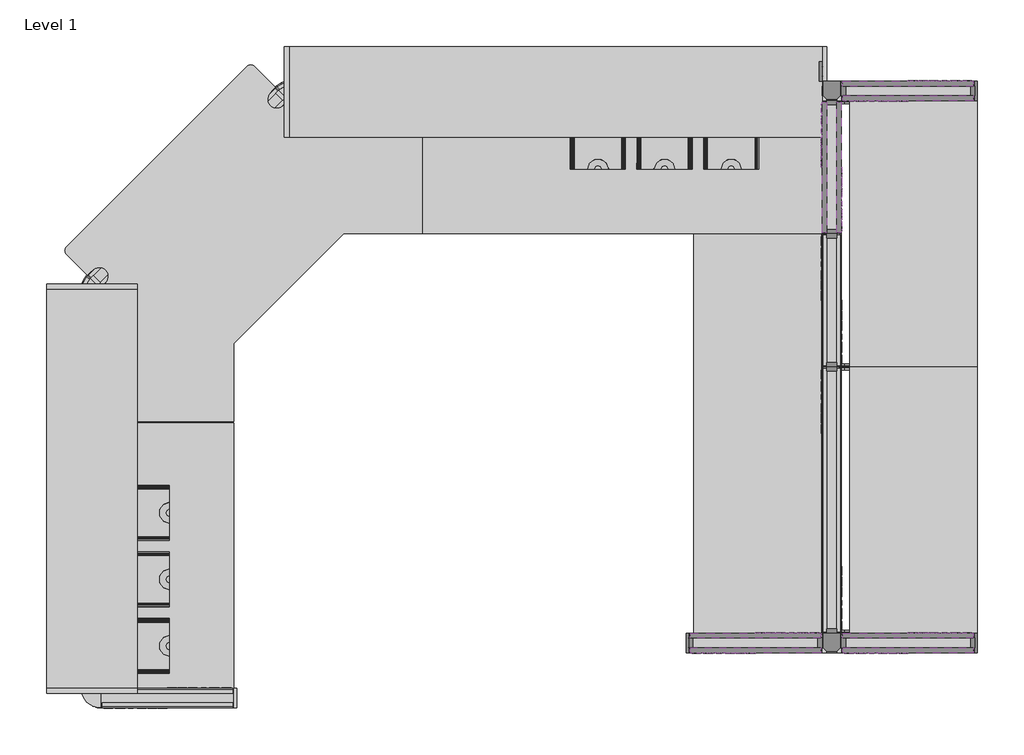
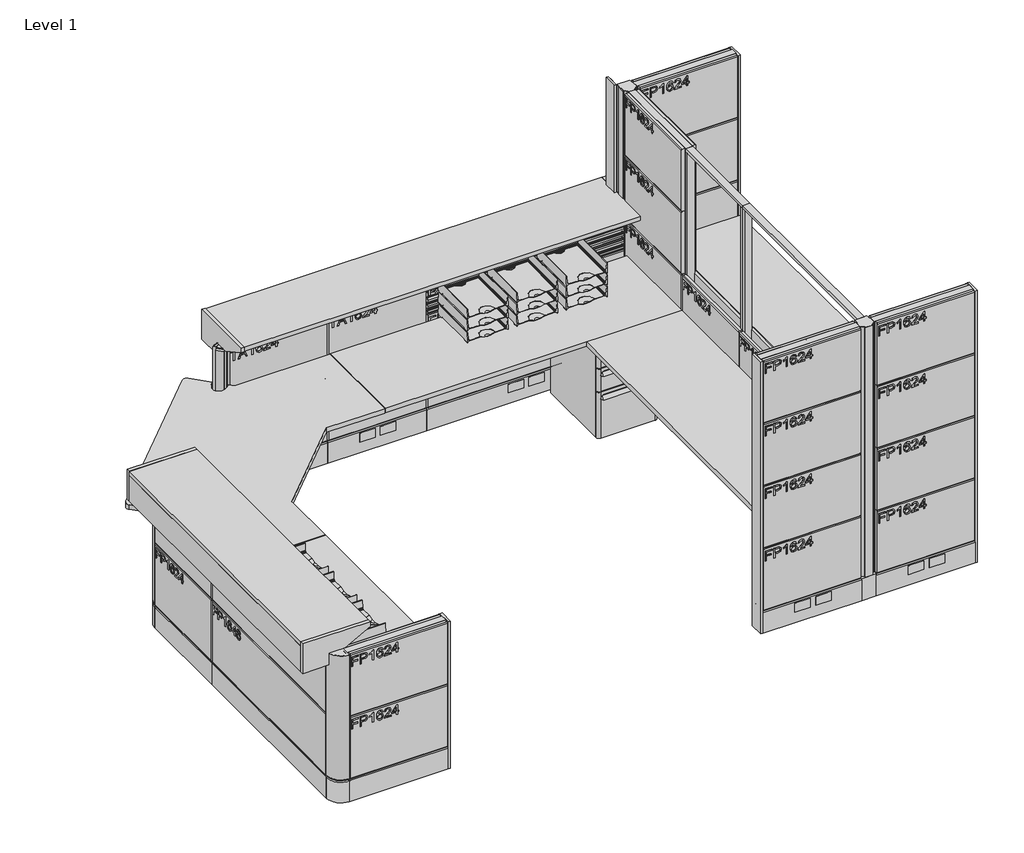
# One storey, incomplete: 147 furniture elements.
"""IFC4 building model written with IfcOpenShell, lengths in millimetres."""

from ifc_helpers import new_model, si_unit, origin, place, context, project, spatial, transform, mapped, element, save
from components import furniture_7da167ec, furniture_d1243616, furniture_9dcc6860, furniture_e1702f06, furniture_eb84e7d2, furniture_ac2deed5, furniture_61a489be, furniture_7175fb00, furniture_0245ad47, furniture_adfb5ce8, furniture_9ef934da, furniture_81fe7897, furniture_8828cb60, furniture_df6beef7, furniture_2b4b025d, furniture_4f5ec0d2, furniture_25a45a0c, furniture_8cdcebd1, furniture_82e04d0f, furniture_e94af63b, furniture_8bbf410e, furniture_e496f4a3, furniture_e89224c6, furniture_083f9362, furniture_85814acf, furniture_a03a5918, furniture_16496107, furniture_bfd90adf, furniture_24d_left_781ecdd2, furniture_24d_right_b8f5cfed, furniture_68980961, furniture_c74ffdfc, end_cap_54c5994d, lam_24d_48w_cabdf88d, lam_24d_48w_0793b51f, lam_24d_72w_2bc73c4e, left_ebece1d7, right_d4cbb337

model = new_model("IFC4")

# Units and contexts
model_context = context("Model", 3, world=origin())
ifc_project = project(units=[si_unit("LENGTHUNIT", "METRE", prefix="MILLI")], contexts=[model_context])

# Site, building, storey
site = spatial("IfcSite", under=ifc_project)
building = spatial("IfcBuilding", under=site)
storey = spatial("IfcBuildingStorey", under=building, Name="Level 1", Elevation=0.0)

# Furniture
placement = place(None, origin())
furniture_shape = furniture_7da167ec(model_context)
element("IfcFurniture", 1, ObjectType="HermanMiller_Quadrant_G5110_B-PullFreestandingPedestal : 26-1/2\"H x 20\"D x 15\"W BBF", at=placement, inside=storey, context=model_context, shape_type="MappedRepresentation", body=[
    mapped(furniture_shape, transform((3016.1484, 2503.5002, 0.0), x_axis=(1.0, 0.0, 0.0), y_axis=(0.0, 1.0, 0.0), z_axis=(0.0, 0.0, 1.0))),
])
element("IfcFurniture", 2, ObjectType="HermanMiller_Quadrant_G5110_B-PullFreestandingPedestal : 26-1/2\"H x 20\"D x 15\"W BBF", at=placement, inside=storey, context=model_context, shape_type="MappedRepresentation", body=[
    mapped(furniture_shape, transform((338.29498, 315.25464, 0.0), x_axis=(0.0, 1.0, 0.0), y_axis=(-1.0, 0.0, 0.0), z_axis=(0.0, 0.0, 1.0))),
])
furniture_2_shape = furniture_d1243616(model_context)
element("IfcFurniture", 3, ObjectType="HermanMiller_Ethospace_E1420_FaceTile : Ptd 16\"H x 24\"W", at=placement, inside=storey, context=model_context, shape_type="MappedRepresentation", body=[
    mapped(furniture_2_shape, transform((2995.70394, 328.7090261, 0.0), x_axis=(-1.0, 0.0, 0.0), y_axis=(0.0, -1.0, 0.0), z_axis=(0.0, 0.0, 1.0))),
])
element("IfcFurniture", 4, ObjectType="HermanMiller_Ethospace_E1420_FaceTile : Ptd 16\"H x 24\"W", at=placement, inside=storey, context=model_context, shape_type="MappedRepresentation", body=[
    mapped(furniture_2_shape, transform((2995.70394, 265.2090139, 0.0), x_axis=(1.0, 0.0, 0.0), y_axis=(0.0, 1.0, 0.0), z_axis=(0.0, 0.0, 1.0))),
])
element("IfcFurniture", 5, ObjectType="HermanMiller_Ethospace_E1420_FaceTile : Ptd 16\"H x 24\"W", at=placement, inside=storey, context=model_context, shape_type="MappedRepresentation", body=[
    mapped(furniture_2_shape, transform((3694.20394, 328.7090261, 0.0), x_axis=(-1.0, 0.0, 0.0), y_axis=(0.0, -1.0, 0.0), z_axis=(0.0, 0.0, 1.0))),
])
element("IfcFurniture", 6, ObjectType="HermanMiller_Ethospace_E1420_FaceTile : Ptd 16\"H x 24\"W", at=placement, inside=storey, context=model_context, shape_type="MappedRepresentation", body=[
    mapped(furniture_2_shape, transform((3694.20394, 265.2090139, 0.0), x_axis=(1.0, 0.0, 0.0), y_axis=(0.0, 1.0, 0.0), z_axis=(0.0, 0.0, 1.0))),
])
element("IfcFurniture", 7, ObjectType="HermanMiller_Ethospace_E1420_FaceTile : Ptd 16\"H x 24\"W", at=placement, inside=storey, context=model_context, shape_type="MappedRepresentation", body=[
    mapped(furniture_2_shape, transform((3376.7039461, 1865.40902, 0.0), x_axis=(0.0, 1.0, 0.0), y_axis=(-1.0, 0.0, 0.0), z_axis=(0.0, 0.0, 1.0))),
])
element("IfcFurniture", 8, ObjectType="HermanMiller_Ethospace_E1420_FaceTile : Ptd 16\"H x 24\"W", at=placement, inside=storey, context=model_context, shape_type="MappedRepresentation", body=[
    mapped(furniture_2_shape, transform((3313.2039339, 1865.40902, 0.0), x_axis=(0.0, -1.0, 0.0), y_axis=(1.0, 0.0, 0.0), z_axis=(0.0, 0.0, 1.0))),
])
element("IfcFurniture", 9, ObjectType="HermanMiller_Ethospace_E1420_FaceTile : Ptd 16\"H x 24\"W", at=placement, inside=storey, context=model_context, shape_type="MappedRepresentation", body=[
    mapped(furniture_2_shape, transform((3376.7039461, 2475.00902, 0.0), x_axis=(0.0, 1.0, 0.0), y_axis=(-1.0, 0.0, 0.0), z_axis=(0.0, 0.0, 1.0))),
])
element("IfcFurniture", 10, ObjectType="HermanMiller_Ethospace_E1420_FaceTile : Ptd 16\"H x 24\"W", at=placement, inside=storey, context=model_context, shape_type="MappedRepresentation", body=[
    mapped(furniture_2_shape, transform((3313.2039339, 2475.00902, 0.0), x_axis=(0.0, -1.0, 0.0), y_axis=(1.0, 0.0, 0.0), z_axis=(0.0, 0.0, 1.0))),
])
element("IfcFurniture", 11, ObjectType="HermanMiller_Ethospace_E1420_FaceTile : Ptd 16\"H x 24\"W", at=placement, inside=storey, context=model_context, shape_type="MappedRepresentation", body=[
    mapped(furniture_2_shape, transform((3694.20394, 2856.0090261, 0.0), x_axis=(-1.0, 0.0, 0.0), y_axis=(0.0, -1.0, 0.0), z_axis=(0.0, 0.0, 1.0))),
])
element("IfcFurniture", 12, ObjectType="HermanMiller_Ethospace_E1420_FaceTile : Ptd 16\"H x 24\"W", at=placement, inside=storey, context=model_context, shape_type="MappedRepresentation", body=[
    mapped(furniture_2_shape, transform((3694.20394, 2792.5090139, 0.0), x_axis=(1.0, 0.0, 0.0), y_axis=(0.0, 1.0, 0.0), z_axis=(0.0, 0.0, 1.0))),
])
element("IfcFurniture", 13, ObjectType="HermanMiller_Ethospace_E1420_FaceTile : Ptd 16\"H x 24\"W", at=placement, inside=storey, context=model_context, shape_type="MappedRepresentation", body=[
    mapped(furniture_2_shape, transform((1776.50394, 2856.0090261, 0.0), x_axis=(-1.0, 0.0, 0.0), y_axis=(0.0, -1.0, 0.0), z_axis=(0.0, 0.0, 1.0))),
])
element("IfcFurniture", 14, ObjectType="HermanMiller_Ethospace_E1420_FaceTile : Ptd 16\"H x 24\"W", at=placement, inside=storey, context=model_context, shape_type="MappedRepresentation", body=[
    mapped(furniture_2_shape, transform((1776.50394, 2792.5090139, 0.0), x_axis=(1.0, 0.0, 0.0), y_axis=(0.0, 1.0, 0.0), z_axis=(0.0, 0.0, 1.0))),
])
element("IfcFurniture", 15, ObjectType="HermanMiller_Ethospace_E1420_FaceTile : Ptd 16\"H x 24\"W", at=placement, inside=storey, context=model_context, shape_type="MappedRepresentation", body=[
    mapped(furniture_2_shape, transform((304.8, 13.4975539, 0.0), x_axis=(1.0, 0.0, 0.0), y_axis=(0.0, 1.0, 0.0), z_axis=(0.0, 0.0, 1.0))),
])
element("IfcFurniture", 16, ObjectType="HermanMiller_Ethospace_E1420_FaceTile : Ptd 16\"H x 24\"W", at=placement, inside=storey, context=model_context, shape_type="MappedRepresentation", body=[
    mapped(furniture_2_shape, transform((304.8, 76.2050861, 0.0), x_axis=(-1.0, 0.0, 0.0), y_axis=(0.0, -1.0, 0.0), z_axis=(0.0, 0.0, 1.0))),
])
element("IfcFurniture", 17, ObjectType="HermanMiller_Ethospace_E1420_FaceTile : Ptd 16\"H x 24\"W", at=placement, inside=storey, context=model_context, shape_type="MappedRepresentation", body=[
    mapped(furniture_2_shape, transform((1166.90394, 2856.0090261, 0.0), x_axis=(-1.0, 0.0, 0.0), y_axis=(0.0, -1.0, 0.0), z_axis=(0.0, 0.0, 1.0))),
])
element("IfcFurniture", 18, ObjectType="HermanMiller_Ethospace_E1420_FaceTile : Ptd 16\"H x 24\"W", at=placement, inside=storey, context=model_context, shape_type="MappedRepresentation", body=[
    mapped(furniture_2_shape, transform((1166.90394, 2792.5090139, 0.0), x_axis=(1.0, 0.0, 0.0), y_axis=(0.0, 1.0, 0.0), z_axis=(0.0, 0.0, 1.0))),
])
element("IfcFurniture", 19, ObjectType="HermanMiller_Ethospace_E1420_FaceTile : Ptd 16\"H x 24\"W", at=placement, inside=storey, context=model_context, shape_type="MappedRepresentation", body=[
    mapped(furniture_2_shape, transform((-76.2000061, 1612.90508, 0.0), x_axis=(0.0, -1.0, 0.0), y_axis=(1.0, 0.0, 0.0), z_axis=(0.0, 0.0, 1.0))),
])
element("IfcFurniture", 20, ObjectType="HermanMiller_Ethospace_E1420_FaceTile : Ptd 16\"H x 24\"W", at=placement, inside=storey, context=model_context, shape_type="MappedRepresentation", body=[
    mapped(furniture_2_shape, transform((-12.6999939, 1612.90508, 0.0), x_axis=(0.0, 1.0, 0.0), y_axis=(-1.0, 0.0, 0.0), z_axis=(0.0, 0.0, 1.0))),
])
furniture_3_shape = furniture_9dcc6860(model_context)
element("IfcFurniture", 21, ObjectType="HermanMiller_Ethospace_E1420_FaceTile : Ptd 16\"H x 24\"W", at=placement, inside=storey, context=model_context, shape_type="MappedRepresentation", body=[
    mapped(furniture_3_shape, transform((-12.6999939, 1612.90508, 0.0), x_axis=(0.0, 1.0, 0.0), y_axis=(-1.0, 0.0, 0.0), z_axis=(0.0, 0.0, 1.0))),
])
element("IfcFurniture", 22, ObjectType="HermanMiller_Ethospace_E1420_FaceTile : Ptd 16\"H x 24\"W", at=placement, inside=storey, context=model_context, shape_type="MappedRepresentation", body=[
    mapped(furniture_3_shape, transform((2995.70394, 328.7090261, 0.0), x_axis=(-1.0, 0.0, 0.0), y_axis=(0.0, -1.0, 0.0), z_axis=(0.0, 0.0, 1.0))),
])
element("IfcFurniture", 23, ObjectType="HermanMiller_Ethospace_E1420_FaceTile : Ptd 16\"H x 24\"W", at=placement, inside=storey, context=model_context, shape_type="MappedRepresentation", body=[
    mapped(furniture_3_shape, transform((2995.70394, 265.2090139, 0.0), x_axis=(1.0, 0.0, 0.0), y_axis=(0.0, 1.0, 0.0), z_axis=(0.0, 0.0, 1.0))),
])
element("IfcFurniture", 24, ObjectType="HermanMiller_Ethospace_E1420_FaceTile : Ptd 16\"H x 24\"W", at=placement, inside=storey, context=model_context, shape_type="MappedRepresentation", body=[
    mapped(furniture_3_shape, transform((3694.20394, 328.7090261, 0.0), x_axis=(-1.0, 0.0, 0.0), y_axis=(0.0, -1.0, 0.0), z_axis=(0.0, 0.0, 1.0))),
])
element("IfcFurniture", 25, ObjectType="HermanMiller_Ethospace_E1420_FaceTile : Ptd 16\"H x 24\"W", at=placement, inside=storey, context=model_context, shape_type="MappedRepresentation", body=[
    mapped(furniture_3_shape, transform((3694.20394, 265.2090139, 0.0), x_axis=(1.0, 0.0, 0.0), y_axis=(0.0, 1.0, 0.0), z_axis=(0.0, 0.0, 1.0))),
])
element("IfcFurniture", 26, ObjectType="HermanMiller_Ethospace_E1420_FaceTile : Ptd 16\"H x 24\"W", at=placement, inside=storey, context=model_context, shape_type="MappedRepresentation", body=[
    mapped(furniture_3_shape, transform((3376.7039461, 1865.40902, 0.0), x_axis=(0.0, 1.0, 0.0), y_axis=(-1.0, 0.0, 0.0), z_axis=(0.0, 0.0, 1.0))),
])
element("IfcFurniture", 27, ObjectType="HermanMiller_Ethospace_E1420_FaceTile : Ptd 16\"H x 24\"W", at=placement, inside=storey, context=model_context, shape_type="MappedRepresentation", body=[
    mapped(furniture_3_shape, transform((3313.2039339, 1865.40902, 0.0), x_axis=(0.0, -1.0, 0.0), y_axis=(1.0, 0.0, 0.0), z_axis=(0.0, 0.0, 1.0))),
])
element("IfcFurniture", 28, ObjectType="HermanMiller_Ethospace_E1420_FaceTile : Ptd 16\"H x 24\"W", at=placement, inside=storey, context=model_context, shape_type="MappedRepresentation", body=[
    mapped(furniture_3_shape, transform((3376.7039461, 2475.00902, 0.0), x_axis=(0.0, 1.0, 0.0), y_axis=(-1.0, 0.0, 0.0), z_axis=(0.0, 0.0, 1.0))),
])
element("IfcFurniture", 29, ObjectType="HermanMiller_Ethospace_E1420_FaceTile : Ptd 16\"H x 24\"W", at=placement, inside=storey, context=model_context, shape_type="MappedRepresentation", body=[
    mapped(furniture_3_shape, transform((3313.2039339, 2475.00902, 0.0), x_axis=(0.0, -1.0, 0.0), y_axis=(1.0, 0.0, 0.0), z_axis=(0.0, 0.0, 1.0))),
])
element("IfcFurniture", 30, ObjectType="HermanMiller_Ethospace_E1420_FaceTile : Ptd 16\"H x 24\"W", at=placement, inside=storey, context=model_context, shape_type="MappedRepresentation", body=[
    mapped(furniture_3_shape, transform((3694.20394, 2856.0090261, 0.0), x_axis=(-1.0, 0.0, 0.0), y_axis=(0.0, -1.0, 0.0), z_axis=(0.0, 0.0, 1.0))),
])
element("IfcFurniture", 31, ObjectType="HermanMiller_Ethospace_E1420_FaceTile : Ptd 16\"H x 24\"W", at=placement, inside=storey, context=model_context, shape_type="MappedRepresentation", body=[
    mapped(furniture_3_shape, transform((3694.20394, 2792.5090139, 0.0), x_axis=(1.0, 0.0, 0.0), y_axis=(0.0, 1.0, 0.0), z_axis=(0.0, 0.0, 1.0))),
])
element("IfcFurniture", 32, ObjectType="HermanMiller_Ethospace_E1420_FaceTile : Ptd 16\"H x 24\"W", at=placement, inside=storey, context=model_context, shape_type="MappedRepresentation", body=[
    mapped(furniture_3_shape, transform((1776.50394, 2856.0090261, 0.0), x_axis=(-1.0, 0.0, 0.0), y_axis=(0.0, -1.0, 0.0), z_axis=(0.0, 0.0, 1.0))),
])
element("IfcFurniture", 33, ObjectType="HermanMiller_Ethospace_E1420_FaceTile : Ptd 16\"H x 24\"W", at=placement, inside=storey, context=model_context, shape_type="MappedRepresentation", body=[
    mapped(furniture_3_shape, transform((304.8, 13.4975539, 0.0), x_axis=(1.0, 0.0, 0.0), y_axis=(0.0, 1.0, 0.0), z_axis=(0.0, 0.0, 1.0))),
])
element("IfcFurniture", 34, ObjectType="HermanMiller_Ethospace_E1420_FaceTile : Ptd 16\"H x 24\"W", at=placement, inside=storey, context=model_context, shape_type="MappedRepresentation", body=[
    mapped(furniture_3_shape, transform((304.8, 76.2050861, 0.0), x_axis=(-1.0, 0.0, 0.0), y_axis=(0.0, -1.0, 0.0), z_axis=(0.0, 0.0, 1.0))),
])
element("IfcFurniture", 35, ObjectType="HermanMiller_Ethospace_E1420_FaceTile : Ptd 16\"H x 24\"W", at=placement, inside=storey, context=model_context, shape_type="MappedRepresentation", body=[
    mapped(furniture_3_shape, transform((1166.90394, 2856.0090261, 0.0), x_axis=(-1.0, 0.0, 0.0), y_axis=(0.0, -1.0, 0.0), z_axis=(0.0, 0.0, 1.0))),
])
element("IfcFurniture", 36, ObjectType="HermanMiller_Ethospace_E1420_FaceTile : Ptd 16\"H x 24\"W", at=placement, inside=storey, context=model_context, shape_type="MappedRepresentation", body=[
    mapped(furniture_3_shape, transform((-76.2000061, 1612.90508, 0.0), x_axis=(0.0, -1.0, 0.0), y_axis=(1.0, 0.0, 0.0), z_axis=(0.0, 0.0, 1.0))),
])
furniture_4_shape = furniture_e1702f06(model_context)
element("IfcFurniture", 37, ObjectType="HermanMiller_Ethospace_E1250_FinishedEnd : Std Ptd 70\"H", at=placement, inside=storey, context=model_context, shape_type="MappedRepresentation", body=[
    mapped(furniture_4_shape, transform((2685.5333382, 291.1628144, 0.0), x_axis=(-1.0, 0.0, 0.0), y_axis=(0.0, -1.0, 0.0), z_axis=(0.0, 0.0, 1.0))),
])
element("IfcFurniture", 38, ObjectType="HermanMiller_Ethospace_E1250_FinishedEnd : Std Ptd 70\"H", at=placement, inside=storey, context=model_context, shape_type="MappedRepresentation", body=[
    mapped(furniture_4_shape, transform((4004.3745418, 302.7552256, 0.0), x_axis=(1.0, 0.0, 0.0), y_axis=(0.0, 1.0, 0.0), z_axis=(0.0, 0.0, 1.0))),
])
element("IfcFurniture", 39, ObjectType="HermanMiller_Ethospace_E1250_FinishedEnd : Std Ptd 70\"H", at=placement, inside=storey, context=model_context, shape_type="MappedRepresentation", body=[
    mapped(furniture_4_shape, transform((4004.3745418, 2830.0552256, 0.0), x_axis=(1.0, 0.0, 0.0), y_axis=(0.0, 1.0, 0.0), z_axis=(0.0, 0.0, 1.0))),
])
furniture_5_shape = furniture_eb84e7d2(model_context)
element("IfcFurniture", 40, ObjectType="HermanMiller_Ethospace_E1420_FaceTile : Ptd 16\"H x 24\"W", at=placement, inside=storey, context=model_context, shape_type="MappedRepresentation", body=[
    mapped(furniture_5_shape, transform((2995.70394, 328.7090261, 0.0), x_axis=(-1.0, 0.0, 0.0), y_axis=(0.0, -1.0, 0.0), z_axis=(0.0, 0.0, 1.0))),
])
element("IfcFurniture", 41, ObjectType="HermanMiller_Ethospace_E1420_FaceTile : Ptd 16\"H x 24\"W", at=placement, inside=storey, context=model_context, shape_type="MappedRepresentation", body=[
    mapped(furniture_5_shape, transform((2995.70394, 265.2090139, 0.0), x_axis=(1.0, 0.0, 0.0), y_axis=(0.0, 1.0, 0.0), z_axis=(0.0, 0.0, 1.0))),
])
element("IfcFurniture", 42, ObjectType="HermanMiller_Ethospace_E1420_FaceTile : Ptd 16\"H x 24\"W", at=placement, inside=storey, context=model_context, shape_type="MappedRepresentation", body=[
    mapped(furniture_5_shape, transform((3694.20394, 328.7090261, 0.0), x_axis=(-1.0, 0.0, 0.0), y_axis=(0.0, -1.0, 0.0), z_axis=(0.0, 0.0, 1.0))),
])
element("IfcFurniture", 43, ObjectType="HermanMiller_Ethospace_E1420_FaceTile : Ptd 16\"H x 24\"W", at=placement, inside=storey, context=model_context, shape_type="MappedRepresentation", body=[
    mapped(furniture_5_shape, transform((3694.20394, 265.2090139, 0.0), x_axis=(1.0, 0.0, 0.0), y_axis=(0.0, 1.0, 0.0), z_axis=(0.0, 0.0, 1.0))),
])
element("IfcFurniture", 44, ObjectType="HermanMiller_Ethospace_E1420_FaceTile : Ptd 16\"H x 24\"W", at=placement, inside=storey, context=model_context, shape_type="MappedRepresentation", body=[
    mapped(furniture_5_shape, transform((3376.7039461, 2475.00902, 0.0), x_axis=(0.0, 1.0, 0.0), y_axis=(-1.0, 0.0, 0.0), z_axis=(0.0, 0.0, 1.0))),
])
element("IfcFurniture", 45, ObjectType="HermanMiller_Ethospace_E1420_FaceTile : Ptd 16\"H x 24\"W", at=placement, inside=storey, context=model_context, shape_type="MappedRepresentation", body=[
    mapped(furniture_5_shape, transform((3313.2039339, 2475.00902, 0.0), x_axis=(0.0, -1.0, 0.0), y_axis=(1.0, 0.0, 0.0), z_axis=(0.0, 0.0, 1.0))),
])
element("IfcFurniture", 46, ObjectType="HermanMiller_Ethospace_E1420_FaceTile : Ptd 16\"H x 24\"W", at=placement, inside=storey, context=model_context, shape_type="MappedRepresentation", body=[
    mapped(furniture_5_shape, transform((3694.20394, 2856.0090261, 0.0), x_axis=(-1.0, 0.0, 0.0), y_axis=(0.0, -1.0, 0.0), z_axis=(0.0, 0.0, 1.0))),
])
element("IfcFurniture", 47, ObjectType="HermanMiller_Ethospace_E1420_FaceTile : Ptd 16\"H x 24\"W", at=placement, inside=storey, context=model_context, shape_type="MappedRepresentation", body=[
    mapped(furniture_5_shape, transform((3694.20394, 2792.5090139, 0.0), x_axis=(1.0, 0.0, 0.0), y_axis=(0.0, 1.0, 0.0), z_axis=(0.0, 0.0, 1.0))),
])
furniture_6_shape = furniture_ac2deed5(model_context)
element("IfcFurniture", 48, ObjectType="HermanMiller_Ethospace_E1420_FaceTile : Ptd 16\"H x 24\"W", at=placement, inside=storey, context=model_context, shape_type="MappedRepresentation", body=[
    mapped(furniture_6_shape, transform((2995.70394, 328.7090261, 0.0), x_axis=(-1.0, 0.0, 0.0), y_axis=(0.0, -1.0, 0.0), z_axis=(0.0, 0.0, 1.0))),
])
element("IfcFurniture", 49, ObjectType="HermanMiller_Ethospace_E1420_FaceTile : Ptd 16\"H x 24\"W", at=placement, inside=storey, context=model_context, shape_type="MappedRepresentation", body=[
    mapped(furniture_6_shape, transform((2995.70394, 265.2090139, 0.0), x_axis=(1.0, 0.0, 0.0), y_axis=(0.0, 1.0, 0.0), z_axis=(0.0, 0.0, 1.0))),
])
element("IfcFurniture", 50, ObjectType="HermanMiller_Ethospace_E1420_FaceTile : Ptd 16\"H x 24\"W", at=placement, inside=storey, context=model_context, shape_type="MappedRepresentation", body=[
    mapped(furniture_6_shape, transform((3694.20394, 328.7090261, 0.0), x_axis=(-1.0, 0.0, 0.0), y_axis=(0.0, -1.0, 0.0), z_axis=(0.0, 0.0, 1.0))),
])
element("IfcFurniture", 51, ObjectType="HermanMiller_Ethospace_E1420_FaceTile : Ptd 16\"H x 24\"W", at=placement, inside=storey, context=model_context, shape_type="MappedRepresentation", body=[
    mapped(furniture_6_shape, transform((3694.20394, 265.2090139, 0.0), x_axis=(1.0, 0.0, 0.0), y_axis=(0.0, 1.0, 0.0), z_axis=(0.0, 0.0, 1.0))),
])
element("IfcFurniture", 52, ObjectType="HermanMiller_Ethospace_E1420_FaceTile : Ptd 16\"H x 24\"W", at=placement, inside=storey, context=model_context, shape_type="MappedRepresentation", body=[
    mapped(furniture_6_shape, transform((3376.7039461, 2475.00902, 0.0), x_axis=(0.0, 1.0, 0.0), y_axis=(-1.0, 0.0, 0.0), z_axis=(0.0, 0.0, 1.0))),
])
element("IfcFurniture", 53, ObjectType="HermanMiller_Ethospace_E1420_FaceTile : Ptd 16\"H x 24\"W", at=placement, inside=storey, context=model_context, shape_type="MappedRepresentation", body=[
    mapped(furniture_6_shape, transform((3313.2039339, 2475.00902, 0.0), x_axis=(0.0, -1.0, 0.0), y_axis=(1.0, 0.0, 0.0), z_axis=(0.0, 0.0, 1.0))),
])
element("IfcFurniture", 54, ObjectType="HermanMiller_Ethospace_E1420_FaceTile : Ptd 16\"H x 24\"W", at=placement, inside=storey, context=model_context, shape_type="MappedRepresentation", body=[
    mapped(furniture_6_shape, transform((3694.20394, 2856.0090261, 0.0), x_axis=(-1.0, 0.0, 0.0), y_axis=(0.0, -1.0, 0.0), z_axis=(0.0, 0.0, 1.0))),
])
element("IfcFurniture", 55, ObjectType="HermanMiller_Ethospace_E1420_FaceTile : Ptd 16\"H x 24\"W", at=placement, inside=storey, context=model_context, shape_type="MappedRepresentation", body=[
    mapped(furniture_6_shape, transform((3694.20394, 2792.5090139, 0.0), x_axis=(1.0, 0.0, 0.0), y_axis=(0.0, 1.0, 0.0), z_axis=(0.0, 0.0, 1.0))),
])
furniture_7_shape = furniture_61a489be(model_context)
element("IfcFurniture", 56, ObjectType="HermanMiller_Ethospace_E1109_Frame : 70\"H x 24\"W-H", at=placement, inside=storey, context=model_context, shape_type="MappedRepresentation", body=[
    mapped(furniture_7_shape, transform((2995.70394, 296.95902, 0.0), x_axis=(1.0, 0.0, 0.0), y_axis=(0.0, 1.0, 0.0), z_axis=(0.0, 0.0, 1.0))),
])
element("IfcFurniture", 57, ObjectType="HermanMiller_Ethospace_E1109_Frame : 70\"H x 24\"W-H", at=placement, inside=storey, context=model_context, shape_type="MappedRepresentation", body=[
    mapped(furniture_7_shape, transform((3694.20394, 296.95902, 0.0), x_axis=(1.0, 0.0, 0.0), y_axis=(0.0, 1.0, 0.0), z_axis=(0.0, 0.0, 1.0))),
])
element("IfcFurniture", 58, ObjectType="HermanMiller_Ethospace_E1109_Frame : 70\"H x 24\"W-H", at=placement, inside=storey, context=model_context, shape_type="MappedRepresentation", body=[
    mapped(furniture_7_shape, transform((3344.95394, 1865.40902, 0.0), x_axis=(0.0, -1.0, 0.0), y_axis=(1.0, 0.0, 0.0), z_axis=(0.0, 0.0, 1.0))),
])
element("IfcFurniture", 59, ObjectType="HermanMiller_Ethospace_E1109_Frame : 70\"H x 24\"W-H", at=placement, inside=storey, context=model_context, shape_type="MappedRepresentation", body=[
    mapped(furniture_7_shape, transform((3344.95394, 2475.00902, 0.0), x_axis=(0.0, -1.0, 0.0), y_axis=(1.0, 0.0, 0.0), z_axis=(0.0, 0.0, 1.0))),
])
element("IfcFurniture", 60, ObjectType="HermanMiller_Ethospace_E1109_Frame : 70\"H x 24\"W-H", at=placement, inside=storey, context=model_context, shape_type="MappedRepresentation", body=[
    mapped(furniture_7_shape, transform((3694.20394, 2824.25902, 0.0), x_axis=(1.0, 0.0, 0.0), y_axis=(0.0, 1.0, 0.0), z_axis=(0.0, 0.0, 1.0))),
])
furniture_8_shape = furniture_7175fb00(model_context)
element("IfcFurniture", 61, ObjectType="HermanMiller_Ethospace_E1220_90DegreeConnector : Vnyl 70\"H 3-Way-N", at=placement, inside=storey, context=model_context, shape_type="MappedRepresentation", body=[
    mapped(furniture_8_shape, transform((3319.5539381, 288.7938099, 0.0), x_axis=(1.0, 0.0, 0.0), y_axis=(0.0, 1.0, 0.0), z_axis=(0.0, 0.0, 1.0))),
])
element("IfcFurniture", 62, ObjectType="HermanMiller_Ethospace_E1220_90DegreeConnector : Vnyl 70\"H 3-Way-N", at=placement, inside=storey, context=model_context, shape_type="MappedRepresentation", body=[
    mapped(furniture_8_shape, transform((3319.5539381, 2816.0938099, 0.0), x_axis=(1.0, 0.0, 0.0), y_axis=(0.0, 1.0, 0.0), z_axis=(0.0, 0.0, 1.0))),
])
furniture_9_shape = furniture_0245ad47(model_context)
element("IfcFurniture", 63, ObjectType="HermanMiller_Ethospace_E1420_FaceTile : Ptd 16\"H x 48\"W", at=placement, inside=storey, context=model_context, shape_type="MappedRepresentation", body=[
    mapped(furniture_9_shape, transform((3313.2039339, 951.00902, 0.0), x_axis=(0.0, -1.0, 0.0), y_axis=(1.0, 0.0, 0.0), z_axis=(0.0, 0.0, 1.0))),
])
element("IfcFurniture", 64, ObjectType="HermanMiller_Ethospace_E1420_FaceTile : Ptd 16\"H x 48\"W", at=placement, inside=storey, context=model_context, shape_type="MappedRepresentation", body=[
    mapped(furniture_9_shape, transform((3376.7039461, 951.00902, 0.0), x_axis=(0.0, 1.0, 0.0), y_axis=(-1.0, 0.0, 0.0), z_axis=(0.0, 0.0, 1.0))),
])
element("IfcFurniture", 65, ObjectType="HermanMiller_Ethospace_E1420_FaceTile : Ptd 16\"H x 48\"W", at=placement, inside=storey, context=model_context, shape_type="MappedRepresentation", body=[
    mapped(furniture_9_shape, transform((2690.90394, 2792.5090139, 0.0), x_axis=(1.0, 0.0, 0.0), y_axis=(0.0, 1.0, 0.0), z_axis=(0.0, 0.0, 1.0))),
])
element("IfcFurniture", 66, ObjectType="HermanMiller_Ethospace_E1420_FaceTile : Ptd 16\"H x 48\"W", at=placement, inside=storey, context=model_context, shape_type="MappedRepresentation", body=[
    mapped(furniture_9_shape, transform((2690.90394, 2856.0090261, 0.0), x_axis=(-1.0, 0.0, 0.0), y_axis=(0.0, -1.0, 0.0), z_axis=(0.0, 0.0, 1.0))),
])
element("IfcFurniture", 67, ObjectType="HermanMiller_Ethospace_E1420_FaceTile : Ptd 16\"H x 48\"W", at=placement, inside=storey, context=model_context, shape_type="MappedRepresentation", body=[
    mapped(furniture_9_shape, transform((-12.6999939, 698.50508, 0.0), x_axis=(0.0, 1.0, 0.0), y_axis=(-1.0, 0.0, 0.0), z_axis=(0.0, 0.0, 1.0))),
])
element("IfcFurniture", 68, ObjectType="HermanMiller_Ethospace_E1420_FaceTile : Ptd 16\"H x 48\"W", at=placement, inside=storey, context=model_context, shape_type="MappedRepresentation", body=[
    mapped(furniture_9_shape, transform((-76.2000061, 698.50508, 0.0), x_axis=(0.0, -1.0, 0.0), y_axis=(1.0, 0.0, 0.0), z_axis=(0.0, 0.0, 1.0))),
])
furniture_10_shape = furniture_adfb5ce8(model_context)
element("IfcFurniture", 69, ObjectType="HermanMiller_Ethospace_E1420_FaceTile : Ptd 16\"H x 48\"W", at=placement, inside=storey, context=model_context, shape_type="MappedRepresentation", body=[
    mapped(furniture_10_shape, transform((3313.2039339, 951.00902, 0.0), x_axis=(0.0, -1.0, 0.0), y_axis=(1.0, 0.0, 0.0), z_axis=(0.0, 0.0, 1.0))),
])
element("IfcFurniture", 70, ObjectType="HermanMiller_Ethospace_E1420_FaceTile : Ptd 16\"H x 48\"W", at=placement, inside=storey, context=model_context, shape_type="MappedRepresentation", body=[
    mapped(furniture_10_shape, transform((3376.7039461, 951.00902, 0.0), x_axis=(0.0, 1.0, 0.0), y_axis=(-1.0, 0.0, 0.0), z_axis=(0.0, 0.0, 1.0))),
])
element("IfcFurniture", 71, ObjectType="HermanMiller_Ethospace_E1420_FaceTile : Ptd 16\"H x 48\"W", at=placement, inside=storey, context=model_context, shape_type="MappedRepresentation", body=[
    mapped(furniture_10_shape, transform((2690.90394, 2856.0090261, 0.0), x_axis=(-1.0, 0.0, 0.0), y_axis=(0.0, -1.0, 0.0), z_axis=(0.0, 0.0, 1.0))),
])
element("IfcFurniture", 72, ObjectType="HermanMiller_Ethospace_E1420_FaceTile : Ptd 16\"H x 48\"W", at=placement, inside=storey, context=model_context, shape_type="MappedRepresentation", body=[
    mapped(furniture_10_shape, transform((-76.2000061, 698.50508, 0.0), x_axis=(0.0, -1.0, 0.0), y_axis=(1.0, 0.0, 0.0), z_axis=(0.0, 0.0, 1.0))),
])
furniture_11_shape = furniture_9ef934da(model_context)
element("IfcFurniture", 73, ObjectType="HermanMiller_Ethospace_E1109_Frame : 70\"H x 48\"W-H", at=placement, inside=storey, context=model_context, shape_type="MappedRepresentation", body=[
    mapped(furniture_11_shape, transform((3344.95394, 951.00902, 0.0), x_axis=(0.0, -1.0, 0.0), y_axis=(1.0, 0.0, 0.0), z_axis=(0.0, 0.0, 1.0))),
])
furniture_12_shape = furniture_81fe7897(model_context)
element("IfcFurniture", 74, ObjectType="HermanMiller_Ethospace_E1251_FinishedEndChangeOfHeight : Std Ptd 28\"H", at=placement, inside=storey, context=model_context, shape_type="MappedRepresentation", body=[
    mapped(furniture_12_shape, transform((3295.1333382, 2907.3907544, 0.0), x_axis=(-1.0, 0.0, 0.0), y_axis=(0.0, -1.0, 0.0), z_axis=(0.0, 0.0, 1.0))),
])
furniture_13_shape = furniture_8828cb60(model_context)
element("IfcFurniture", 75, ObjectType="HermanMiller_Ethospace_E2827_CounterTopSupport : 24\"W W/Light", at=placement, inside=storey, context=model_context, shape_type="MappedRepresentation", body=[
    mapped(furniture_13_shape, transform((1776.50394, 2811.55902, 0.0), x_axis=(1.0, 0.0, 0.0), y_axis=(0.0, 1.0, 0.0), z_axis=(0.0, 0.0, 1.0))),
])
element("IfcFurniture", 76, ObjectType="HermanMiller_Ethospace_E2827_CounterTopSupport : 24\"W W/Light", at=placement, inside=storey, context=model_context, shape_type="MappedRepresentation", body=[
    mapped(furniture_13_shape, transform((1166.90394, 2811.5641, 0.0), x_axis=(1.0, 0.0, 0.0), y_axis=(0.0, 1.0, 0.0), z_axis=(0.0, 0.0, 1.0))),
])
element("IfcFurniture", 77, ObjectType="HermanMiller_Ethospace_E2827_CounterTopSupport : 24\"W W/Light", at=placement, inside=storey, context=model_context, shape_type="MappedRepresentation", body=[
    mapped(furniture_13_shape, transform((-31.75254, 1612.90508, 0.0), x_axis=(0.0, 1.0, 0.0), y_axis=(-1.0, 0.0, 0.0), z_axis=(0.0, 0.0, 1.0))),
])
furniture_14_shape = furniture_df6beef7(model_context)
element("IfcFurniture", 78, ObjectType="HermanMiller_Ethospace_E2827_CounterTopSupport : 48\"W W/Light", at=placement, inside=storey, context=model_context, shape_type="MappedRepresentation", body=[
    mapped(furniture_14_shape, transform((2690.90394, 2811.55902, 0.0), x_axis=(1.0, 0.0, 0.0), y_axis=(0.0, 1.0, 0.0), z_axis=(0.0, 0.0, 1.0))),
])
element("IfcFurniture", 79, ObjectType="HermanMiller_Ethospace_E2827_CounterTopSupport : 48\"W W/Light", at=placement, inside=storey, context=model_context, shape_type="MappedRepresentation", body=[
    mapped(furniture_14_shape, transform((-31.7373, 698.50508, 0.0), x_axis=(0.0, 1.0, 0.0), y_axis=(-1.0, 0.0, 0.0), z_axis=(0.0, 0.0, 1.0))),
])
furniture_15_shape = furniture_2b4b025d(model_context)
element("IfcFurniture", 80, ObjectType="HermanMiller_Ethospace_E1109_Frame : 38\"H x 48\"W-H", at=placement, inside=storey, context=model_context, shape_type="MappedRepresentation", body=[
    mapped(furniture_15_shape, transform((2690.90394, 2824.25902, 0.0), x_axis=(1.0, 0.0, 0.0), y_axis=(0.0, 1.0, 0.0), z_axis=(0.0, 0.0, 1.0))),
])
element("IfcFurniture", 81, ObjectType="HermanMiller_Ethospace_E1109_Frame : 38\"H x 48\"W-H", at=placement, inside=storey, context=model_context, shape_type="MappedRepresentation", body=[
    mapped(furniture_15_shape, transform((-44.44238, 698.50508, 0.0), x_axis=(0.0, 1.0, 0.0), y_axis=(-1.0, 0.0, 0.0), z_axis=(0.0, 0.0, 1.0))),
])
furniture_16_shape = furniture_4f5ec0d2(model_context)
element("IfcFurniture", 82, ObjectType="HermanMiller_Ethospace_E1420_FaceTile : Ptd 08\"H x 48\"W", at=placement, inside=storey, context=model_context, shape_type="MappedRepresentation", body=[
    mapped(furniture_16_shape, transform((2690.90394, 2792.5090139, 0.0), x_axis=(1.0, 0.0, 0.0), y_axis=(0.0, 1.0, 0.0), z_axis=(0.0, 0.0, 1.0))),
])
element("IfcFurniture", 83, ObjectType="HermanMiller_Ethospace_E1420_FaceTile : Ptd 08\"H x 48\"W", at=placement, inside=storey, context=model_context, shape_type="MappedRepresentation", body=[
    mapped(furniture_16_shape, transform((-12.6999939, 698.50508, 0.0), x_axis=(0.0, 1.0, 0.0), y_axis=(-1.0, 0.0, 0.0), z_axis=(0.0, 0.0, 1.0))),
])
furniture_17_shape = furniture_25a45a0c(model_context)
element("IfcFurniture", 84, ObjectType="HermanMiller_Ethospace_E1425_RailTile : 08\"H x 48\"W", at=placement, inside=storey, context=model_context, shape_type="MappedRepresentation", body=[
    mapped(furniture_17_shape, transform((2690.90394, 2802.03402, 0.0), x_axis=(1.0, 0.0, 0.0), y_axis=(0.0, 1.0, 0.0), z_axis=(0.0, 0.0, 1.0))),
])
element("IfcFurniture", 85, ObjectType="HermanMiller_Ethospace_E1425_RailTile : 08\"H x 48\"W", at=placement, inside=storey, context=model_context, shape_type="MappedRepresentation", body=[
    mapped(furniture_17_shape, transform((-22.225, 698.50508, 0.0), x_axis=(0.0, 1.0, 0.0), y_axis=(-1.0, 0.0, 0.0), z_axis=(0.0, 0.0, 1.0))),
])
furniture_18_shape = furniture_8cdcebd1(model_context)
element("IfcFurniture", 86, ObjectType="HermanMiller_Ethospace_E1422_TackableTile : 16\"H x 24\"W", at=placement, inside=storey, context=model_context, shape_type="MappedRepresentation", body=[
    mapped(furniture_18_shape, transform((1776.50394, 2792.5090139, 0.0), x_axis=(1.0, 0.0, 0.0), y_axis=(0.0, 1.0, 0.0), z_axis=(0.0, 0.0, 1.0))),
])
element("IfcFurniture", 87, ObjectType="HermanMiller_Ethospace_E1422_TackableTile : 16\"H x 24\"W", at=placement, inside=storey, context=model_context, shape_type="MappedRepresentation", body=[
    mapped(furniture_18_shape, transform((1166.90394, 2792.5090139, 0.0), x_axis=(1.0, 0.0, 0.0), y_axis=(0.0, 1.0, 0.0), z_axis=(0.0, 0.0, 1.0))),
])
furniture_19_shape = furniture_82e04d0f(model_context)
element("IfcFurniture", 88, ObjectType="HermanMiller_Ethospace_E1109_Frame : 38\"H x 24\"W-H", at=placement, inside=storey, context=model_context, shape_type="MappedRepresentation", body=[
    mapped(furniture_19_shape, transform((1776.50394, 2824.25902, 0.0), x_axis=(1.0, 0.0, 0.0), y_axis=(0.0, 1.0, 0.0), z_axis=(0.0, 0.0, 1.0))),
])
element("IfcFurniture", 89, ObjectType="HermanMiller_Ethospace_E1109_Frame : 38\"H x 24\"W-H", at=placement, inside=storey, context=model_context, shape_type="MappedRepresentation", body=[
    mapped(furniture_19_shape, transform((304.93716, 44.45508, 0.0), x_axis=(-1.0, 0.0, 0.0), y_axis=(0.0, -1.0, 0.0), z_axis=(0.0, 0.0, 1.0))),
])
element("IfcFurniture", 90, ObjectType="HermanMiller_Ethospace_E1109_Frame : 38\"H x 24\"W-H", at=placement, inside=storey, context=model_context, shape_type="MappedRepresentation", body=[
    mapped(furniture_19_shape, transform((1166.90394, 2824.2641, 0.0), x_axis=(1.0, 0.0, 0.0), y_axis=(0.0, 1.0, 0.0), z_axis=(0.0, 0.0, 1.0))),
])
element("IfcFurniture", 91, ObjectType="HermanMiller_Ethospace_E1109_Frame : 38\"H x 24\"W-H", at=placement, inside=storey, context=model_context, shape_type="MappedRepresentation", body=[
    mapped(furniture_19_shape, transform((-44.45254, 1612.90508, 0.0), x_axis=(0.0, 1.0, 0.0), y_axis=(-1.0, 0.0, 0.0), z_axis=(0.0, 0.0, 1.0))),
])
furniture_20_shape = furniture_e94af63b(model_context)
element("IfcFurniture", 92, ObjectType="HermanMiller_Ethospace_E2830_SqEdgeCounterTop : 7-1/2\"H x 16-3/8\"D x 72\"W", at=placement, inside=storey, context=model_context, shape_type="MappedRepresentation", body=[
    mapped(furniture_20_shape, transform((-39.69004, 1003.30508, 0.0), x_axis=(0.0, 1.0, 0.0), y_axis=(-1.0, 0.0, 0.0), z_axis=(0.0, 0.0, 1.0))),
])
furniture_21_shape = furniture_8bbf410e(model_context)
element("IfcFurniture", 93, ObjectType="HermanMiller_Ethospace_E1250_FinishedEnd : Std Ptd 38\"H", at=placement, inside=storey, context=model_context, shape_type="MappedRepresentation", body=[
    mapped(furniture_21_shape, transform((615.1077618, 50.2512856, 0.0), x_axis=(1.0, 0.0, 0.0), y_axis=(0.0, 1.0, 0.0), z_axis=(0.0, 0.0, 1.0))),
])
furniture_22_shape = furniture_e496f4a3(model_context)
element("IfcFurniture", 94, ObjectType="HermanMiller_Ethospace_E1220_90DegreeConnector : Vnyl 38\"H 2-Way Rds-N", at=placement, inside=storey, context=model_context, shape_type="MappedRepresentation", body=[
    mapped(furniture_22_shape, transform((-19.0372981, 52.6202901, 0.0), x_axis=(-1.0, 0.0, 0.0), y_axis=(0.0, -1.0, 0.0), z_axis=(0.0, 0.0, 1.0))),
])
furniture_23_shape = furniture_e89224c6(model_context)
element("IfcFurniture", 95, ObjectType="HermanMiller_Ethospace_E2830_SqEdgeCounterTop : 7-1/2\"H x 16-3/8\"D x 96\"W", at=placement, inside=storey, context=model_context, shape_type="MappedRepresentation", body=[
    mapped(furniture_23_shape, transform((2081.30394, 2819.5016, 0.0), x_axis=(1.0, 0.0, 0.0), y_axis=(0.0, 1.0, 0.0), z_axis=(0.0, 0.0, 1.0))),
])
furniture_24_shape = furniture_083f9362(model_context)
element("IfcFurniture", 96, ObjectType="HermanMiller_Ethospace_E1420_FaceTile : Ptd 20\"H x 48\"W", at=placement, inside=storey, context=model_context, shape_type="MappedRepresentation", body=[
    mapped(furniture_24_shape, transform((377.238018, 2402.7557743, 0.0), x_axis=(-0.7071067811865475, -0.7071067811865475, 0.0), y_axis=(0.7071067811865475, -0.7071067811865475, 0.0), z_axis=(0.0, 0.0, 1.0))),
])
element("IfcFurniture", 97, ObjectType="HermanMiller_Ethospace_E1420_FaceTile : Ptd 20\"H x 48\"W", at=placement, inside=storey, context=model_context, shape_type="MappedRepresentation", body=[
    mapped(furniture_24_shape, transform((422.072042, 2357.7376257, 0.0), x_axis=(0.7071067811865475, 0.7071067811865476, 0.0), y_axis=(-0.7071067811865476, 0.7071067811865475, 0.0), z_axis=(0.0, 0.0, 1.0))),
])
furniture_25_shape = furniture_85814acf(model_context)
element("IfcFurniture", 98, ObjectType="HermanMiller_Ethospace_E1116_FrameTransactionWorkSurface : 38\"H x 48\"W-H", at=placement, inside=storey, context=model_context, shape_type="MappedRepresentation", body=[
    mapped(furniture_25_shape, transform((399.7553502, 2380.1914774, 0.0), x_axis=(0.7071067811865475, 0.7071067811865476, 0.0), y_axis=(-0.7071067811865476, 0.7071067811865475, 0.0), z_axis=(0.0, 0.0, 1.0))),
])
furniture_26_shape = furniture_a03a5918(model_context)
element("IfcFurniture", 99, ObjectType="HermanMiller_ThrivePortfolio_Y7216_PaperTray : 3\"H x 12\"D x 10\"W", at=placement, inside=storey, context=model_context, shape_type="MappedRepresentation", body=[
    mapped(furniture_26_shape, transform((160.05048, 892.43154, 0.0), x_axis=(0.0, 1.0, 0.0), y_axis=(-1.0, 0.0, 0.0), z_axis=(0.0, 0.0, 1.0))),
])
element("IfcFurniture", 100, ObjectType="HermanMiller_ThrivePortfolio_Y7216_PaperTray : 3\"H x 12\"D x 10\"W", at=placement, inside=storey, context=model_context, shape_type="MappedRepresentation", body=[
    mapped(furniture_26_shape, transform((160.05048, 587.63154, 0.0), x_axis=(0.0, 1.0, 0.0), y_axis=(-1.0, 0.0, 0.0), z_axis=(0.0, 0.0, 1.0))),
])
element("IfcFurniture", 101, ObjectType="HermanMiller_ThrivePortfolio_Y7216_PaperTray : 3\"H x 12\"D x 10\"W", at=placement, inside=storey, context=model_context, shape_type="MappedRepresentation", body=[
    mapped(furniture_26_shape, transform((160.05048, 282.83154, 0.0), x_axis=(0.0, 1.0, 0.0), y_axis=(-1.0, 0.0, 0.0), z_axis=(0.0, 0.0, 1.0))),
])
element("IfcFurniture", 102, ObjectType="HermanMiller_ThrivePortfolio_Y7216_PaperTray : 3\"H x 12\"D x 10\"W", at=placement, inside=storey, context=model_context, shape_type="MappedRepresentation", body=[
    mapped(furniture_26_shape, transform((2884.83294, 2619.75854, 0.0), x_axis=(1.0, 0.0, 0.0), y_axis=(0.0, 1.0, 0.0), z_axis=(0.0, 0.0, 1.0))),
])
element("IfcFurniture", 103, ObjectType="HermanMiller_ThrivePortfolio_Y7216_PaperTray : 3\"H x 12\"D x 10\"W", at=placement, inside=storey, context=model_context, shape_type="MappedRepresentation", body=[
    mapped(furniture_26_shape, transform((2580.03294, 2619.75854, 0.0), x_axis=(1.0, 0.0, 0.0), y_axis=(0.0, 1.0, 0.0), z_axis=(0.0, 0.0, 1.0))),
])
element("IfcFurniture", 104, ObjectType="HermanMiller_ThrivePortfolio_Y7216_PaperTray : 3\"H x 12\"D x 10\"W", at=placement, inside=storey, context=model_context, shape_type="MappedRepresentation", body=[
    mapped(furniture_26_shape, transform((2275.23294, 2619.75854, 0.0), x_axis=(1.0, 0.0, 0.0), y_axis=(0.0, 1.0, 0.0), z_axis=(0.0, 0.0, 1.0))),
])
furniture_27_shape = furniture_16496107(model_context)
element("IfcFurniture", 105, ObjectType="HermanMiller_ThrivePortfolio_Y7216_PaperTray : 3\"H x 12\"D x 10\"W", at=placement, inside=storey, context=model_context, shape_type="MappedRepresentation", body=[
    mapped(furniture_27_shape, transform((160.05048, 892.43154, 0.0), x_axis=(0.0, 1.0, 0.0), y_axis=(-1.0, 0.0, 0.0), z_axis=(0.0, 0.0, 1.0))),
])
element("IfcFurniture", 106, ObjectType="HermanMiller_ThrivePortfolio_Y7216_PaperTray : 3\"H x 12\"D x 10\"W", at=placement, inside=storey, context=model_context, shape_type="MappedRepresentation", body=[
    mapped(furniture_27_shape, transform((160.05048, 587.63154, 0.0), x_axis=(0.0, 1.0, 0.0), y_axis=(-1.0, 0.0, 0.0), z_axis=(0.0, 0.0, 1.0))),
])
element("IfcFurniture", 107, ObjectType="HermanMiller_ThrivePortfolio_Y7216_PaperTray : 3\"H x 12\"D x 10\"W", at=placement, inside=storey, context=model_context, shape_type="MappedRepresentation", body=[
    mapped(furniture_27_shape, transform((160.05048, 282.83154, 0.0), x_axis=(0.0, 1.0, 0.0), y_axis=(-1.0, 0.0, 0.0), z_axis=(0.0, 0.0, 1.0))),
])
element("IfcFurniture", 108, ObjectType="HermanMiller_ThrivePortfolio_Y7216_PaperTray : 3\"H x 12\"D x 10\"W", at=placement, inside=storey, context=model_context, shape_type="MappedRepresentation", body=[
    mapped(furniture_27_shape, transform((2884.83294, 2619.75854, 0.0), x_axis=(1.0, 0.0, 0.0), y_axis=(0.0, 1.0, 0.0), z_axis=(0.0, 0.0, 1.0))),
])
element("IfcFurniture", 109, ObjectType="HermanMiller_ThrivePortfolio_Y7216_PaperTray : 3\"H x 12\"D x 10\"W", at=placement, inside=storey, context=model_context, shape_type="MappedRepresentation", body=[
    mapped(furniture_27_shape, transform((2580.03294, 2619.75854, 0.0), x_axis=(1.0, 0.0, 0.0), y_axis=(0.0, 1.0, 0.0), z_axis=(0.0, 0.0, 1.0))),
])
element("IfcFurniture", 110, ObjectType="HermanMiller_ThrivePortfolio_Y7216_PaperTray : 3\"H x 12\"D x 10\"W", at=placement, inside=storey, context=model_context, shape_type="MappedRepresentation", body=[
    mapped(furniture_27_shape, transform((2275.23294, 2619.75854, 0.0), x_axis=(1.0, 0.0, 0.0), y_axis=(0.0, 1.0, 0.0), z_axis=(0.0, 0.0, 1.0))),
])
furniture_28_shape = furniture_bfd90adf(model_context)
element("IfcFurniture", 111, ObjectType="HermanMiller_ThrivePortfolio_Y7216_PaperTray : 3\"H x 12\"D x 10\"W", at=placement, inside=storey, context=model_context, shape_type="MappedRepresentation", body=[
    mapped(furniture_28_shape, transform((160.05048, 892.43154, 0.0), x_axis=(0.0, 1.0, 0.0), y_axis=(-1.0, 0.0, 0.0), z_axis=(0.0, 0.0, 1.0))),
])
element("IfcFurniture", 112, ObjectType="HermanMiller_ThrivePortfolio_Y7216_PaperTray : 3\"H x 12\"D x 10\"W", at=placement, inside=storey, context=model_context, shape_type="MappedRepresentation", body=[
    mapped(furniture_28_shape, transform((2884.83294, 2619.75854, 0.0), x_axis=(1.0, 0.0, 0.0), y_axis=(0.0, 1.0, 0.0), z_axis=(0.0, 0.0, 1.0))),
])
element("IfcFurniture", 113, ObjectType="HermanMiller_ThrivePortfolio_Y7216_PaperTray : 3\"H x 12\"D x 10\"W", at=placement, inside=storey, context=model_context, shape_type="MappedRepresentation", body=[
    mapped(furniture_28_shape, transform((2580.03294, 2619.75854, 0.0), x_axis=(1.0, 0.0, 0.0), y_axis=(0.0, 1.0, 0.0), z_axis=(0.0, 0.0, 1.0))),
])
element("IfcFurniture", 114, ObjectType="HermanMiller_ThrivePortfolio_Y7216_PaperTray : 3\"H x 12\"D x 10\"W", at=placement, inside=storey, context=model_context, shape_type="MappedRepresentation", body=[
    mapped(furniture_28_shape, transform((2275.23294, 2619.75854, 0.0), x_axis=(1.0, 0.0, 0.0), y_axis=(0.0, 1.0, 0.0), z_axis=(0.0, 0.0, 1.0))),
])
element("IfcFurniture", 115, ObjectType="HermanMiller_ThrivePortfolio_Y7216_PaperTray : 3\"H x 12\"D x 10\"W", at=placement, inside=storey, context=model_context, shape_type="MappedRepresentation", body=[
    mapped(furniture_28_shape, transform((160.05048, 587.63154, 0.0), x_axis=(0.0, 1.0, 0.0), y_axis=(-1.0, 0.0, 0.0), z_axis=(0.0, 0.0, 1.0))),
])
element("IfcFurniture", 116, ObjectType="HermanMiller_ThrivePortfolio_Y7216_PaperTray : 3\"H x 12\"D x 10\"W", at=placement, inside=storey, context=model_context, shape_type="MappedRepresentation", body=[
    mapped(furniture_28_shape, transform((160.05048, 282.83154, 0.0), x_axis=(0.0, 1.0, 0.0), y_axis=(-1.0, 0.0, 0.0), z_axis=(0.0, 0.0, 1.0))),
])
furniture_24d_left_shape = furniture_24d_left_781ecdd2(model_context)
element("IfcFurniture", 117, ObjectType="HermanMiller_Ethospace_E2393_WorkSurfaceSupport : 24D Left", at=placement, inside=storey, context=model_context, shape_type="MappedRepresentation", body=[
    mapped(furniture_24d_left_shape, transform((3090.95394, 2168.68502, 0.0), x_axis=(0.0, -1.0, 0.0), y_axis=(1.0, 0.0, 0.0), z_axis=(0.0, 0.0, 1.0))),
])
element("IfcFurniture", 118, ObjectType="HermanMiller_Ethospace_E2393_WorkSurfaceSupport : 24D Left", at=placement, inside=storey, context=model_context, shape_type="MappedRepresentation", body=[
    mapped(furniture_24d_left_shape, transform((3633.87894, 1562.13302, 0.0), x_axis=(0.0, 1.0, 0.0), y_axis=(-1.0, 0.0, 0.0), z_axis=(0.0, 0.0, 1.0))),
])
element("IfcFurniture", 119, ObjectType="HermanMiller_Ethospace_E2393_WorkSurfaceSupport : 24D Left", at=placement, inside=storey, context=model_context, shape_type="MappedRepresentation", body=[
    mapped(furniture_24d_left_shape, transform((3633.87894, 342.93302, 0.0), x_axis=(0.0, 1.0, 0.0), y_axis=(-1.0, 0.0, 0.0), z_axis=(0.0, 0.0, 1.0))),
])
element("IfcFurniture", 120, ObjectType="HermanMiller_Ethospace_E2393_WorkSurfaceSupport : 24D Left", at=placement, inside=storey, context=model_context, shape_type="MappedRepresentation", body=[
    mapped(furniture_24d_left_shape, transform((1473.22794, 2548.03402, 0.0), x_axis=(1.0, 0.0, 0.0), y_axis=(0.0, 1.0, 0.0), z_axis=(0.0, 0.0, 1.0))),
])
element("IfcFurniture", 121, ObjectType="HermanMiller_Ethospace_E2393_WorkSurfaceSupport : 24D Left", at=placement, inside=storey, context=model_context, shape_type="MappedRepresentation", body=[
    mapped(furniture_24d_left_shape, transform((231.91216, 88.84158, 0.0), x_axis=(0.0, 1.0, 0.0), y_axis=(-1.0, 0.0, 0.0), z_axis=(0.0, 0.0, 1.0))),
])
element("IfcFurniture", 122, ObjectType="HermanMiller_Ethospace_E2393_WorkSurfaceSupport : 24D Left", at=placement, inside=storey, context=model_context, shape_type="MappedRepresentation", body=[
    mapped(furniture_24d_left_shape, transform((165.1044649, 1754.8930365, 0.0), x_axis=(0.7071067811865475, 0.7071067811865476, 0.0), y_axis=(-0.7071067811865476, 0.7071067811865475, 0.0), z_axis=(0.0, 0.0, 1.0))),
])
furniture_24d_right_shape = furniture_24d_right_b8f5cfed(model_context)
element("IfcFurniture", 123, ObjectType="HermanMiller_Ethospace_E2393_WorkSurfaceSupport : 24D Right", at=placement, inside=storey, context=model_context, shape_type="MappedRepresentation", body=[
    mapped(furniture_24d_right_shape, transform((3090.95394, 342.93302, 0.0), x_axis=(0.0, -1.0, 0.0), y_axis=(1.0, 0.0, 0.0), z_axis=(0.0, 0.0, 1.0))),
])
element("IfcFurniture", 124, ObjectType="HermanMiller_Ethospace_E2393_WorkSurfaceSupport : 24D Right", at=placement, inside=storey, context=model_context, shape_type="MappedRepresentation", body=[
    mapped(furniture_24d_right_shape, transform((3633.87894, 2778.28502, 0.0), x_axis=(0.0, 1.0, 0.0), y_axis=(-1.0, 0.0, 0.0), z_axis=(0.0, 0.0, 1.0))),
])
element("IfcFurniture", 125, ObjectType="HermanMiller_Ethospace_E2393_WorkSurfaceSupport : 24D Right", at=placement, inside=storey, context=model_context, shape_type="MappedRepresentation", body=[
    mapped(furniture_24d_right_shape, transform((3633.87894, 1559.08502, 0.0), x_axis=(0.0, 1.0, 0.0), y_axis=(-1.0, 0.0, 0.0), z_axis=(0.0, 0.0, 1.0))),
])
element("IfcFurniture", 126, ObjectType="HermanMiller_Ethospace_E2393_WorkSurfaceSupport : 24D Right", at=placement, inside=storey, context=model_context, shape_type="MappedRepresentation", body=[
    mapped(furniture_24d_right_shape, transform((3298.97994, 2548.03402, 0.0), x_axis=(1.0, 0.0, 0.0), y_axis=(0.0, 1.0, 0.0), z_axis=(0.0, 0.0, 1.0))),
])
element("IfcFurniture", 127, ObjectType="HermanMiller_Ethospace_E2393_WorkSurfaceSupport : 24D Right", at=placement, inside=storey, context=model_context, shape_type="MappedRepresentation", body=[
    mapped(furniture_24d_right_shape, transform((231.91216, 1304.99358, 0.0), x_axis=(0.0, 1.0, 0.0), y_axis=(-1.0, 0.0, 0.0), z_axis=(0.0, 0.0, 1.0))),
])
element("IfcFurniture", 128, ObjectType="HermanMiller_Ethospace_E2393_WorkSurfaceSupport : 24D Right", at=placement, inside=storey, context=model_context, shape_type="MappedRepresentation", body=[
    mapped(furniture_24d_right_shape, transform((1025.0537911, 2614.8423627, 0.0), x_axis=(0.7071067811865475, 0.7071067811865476, 0.0), y_axis=(-0.7071067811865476, 0.7071067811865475, 0.0), z_axis=(0.0, 0.0, 1.0))),
])
furniture_29_shape = furniture_68980961(model_context)
element("IfcFurniture", 129, ObjectType="HermanMiller_Ethospace_E1221_135DegreeConnector : 38\"H", at=placement, inside=storey, context=model_context, shape_type="MappedRepresentation", body=[
    mapped(furniture_29_shape, transform((900.5327005, 2772.5891783, 0.0), x_axis=(0.7071067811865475, 0.7071067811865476, 0.0), y_axis=(-0.7071067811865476, 0.7071067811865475, 0.0), z_axis=(0.0, 0.0, 1.0))),
])
element("IfcFurniture", 130, ObjectType="HermanMiller_Ethospace_E1221_135DegreeConnector : 38\"H", at=placement, inside=storey, context=model_context, shape_type="MappedRepresentation", body=[
    mapped(furniture_29_shape, transform((32.2784362, 1939.6752154, 0.0), x_axis=(0.0, 1.0, 0.0), y_axis=(-1.0, 0.0, 0.0), z_axis=(0.0, 0.0, 1.0))),
])
furniture_30_shape = furniture_c74ffdfc(model_context)
element("IfcFurniture", 131, ObjectType="HermanMiller_Ethospace_E2828_CounterTopSupportFiller : 9\"", at=placement, inside=storey, context=model_context, shape_type="MappedRepresentation", body=[
    mapped(furniture_30_shape, transform((1516.15394, 2811.55902, 0.0), x_axis=(1.0, 0.0, 0.0), y_axis=(0.0, 1.0, 0.0), z_axis=(0.0, 0.0, 1.0))),
])
element("IfcFurniture", 132, ObjectType="HermanMiller_Ethospace_E2828_CounterTopSupportFiller : 9\"", at=placement, inside=storey, context=model_context, shape_type="MappedRepresentation", body=[
    mapped(furniture_30_shape, transform((2125.75394, 2811.55902, 0.0), x_axis=(1.0, 0.0, 0.0), y_axis=(0.0, 1.0, 0.0), z_axis=(0.0, 0.0, 1.0))),
])
element("IfcFurniture", 133, ObjectType="HermanMiller_Ethospace_E2828_CounterTopSupportFiller : 9\"", at=placement, inside=storey, context=model_context, shape_type="MappedRepresentation", body=[
    mapped(furniture_30_shape, transform((-31.74238, 1352.55508, 0.0), x_axis=(0.0, 1.0, 0.0), y_axis=(-1.0, 0.0, 0.0), z_axis=(0.0, 0.0, 1.0))),
])
end_cap_shape = end_cap_54c5994d(model_context)
element("IfcFurniture", 134, ObjectType="HermanMiller_Ethospace_E2829_CounterTopSupportEndCap : End Cap", at=placement, inside=storey, context=model_context, shape_type="MappedRepresentation", body=[
    mapped(end_cap_shape, transform((3243.35394, 2836.98696, 0.0), x_axis=(-1.0, 0.0, 0.0), y_axis=(0.0, -1.0, 0.0), z_axis=(0.0, 0.0, 1.0))),
])
element("IfcFurniture", 135, ObjectType="HermanMiller_Ethospace_E2829_CounterTopSupportEndCap : End Cap", at=placement, inside=storey, context=model_context, shape_type="MappedRepresentation", body=[
    mapped(end_cap_shape, transform((-31.75254, 146.05508, 0.0), x_axis=(0.0, 1.0, 0.0), y_axis=(-1.0, 0.0, 0.0), z_axis=(0.0, 0.0, 1.0))),
])
element("IfcFurniture", 136, ObjectType="HermanMiller_Ethospace_E2829_CounterTopSupportEndCap : End Cap", at=placement, inside=storey, context=model_context, shape_type="MappedRepresentation", body=[
    mapped(end_cap_shape, transform((919.25394, 2836.9641, 0.0), x_axis=(-1.0, 0.0, 0.0), y_axis=(0.0, -1.0, 0.0), z_axis=(0.0, 0.0, 1.0))),
])
element("IfcFurniture", 137, ObjectType="HermanMiller_Ethospace_E2829_CounterTopSupportEndCap : End Cap", at=placement, inside=storey, context=model_context, shape_type="MappedRepresentation", body=[
    mapped(end_cap_shape, transform((-57.15254, 1860.55508, 0.0), x_axis=(0.0, -1.0, 0.0), y_axis=(1.0, 0.0, 0.0), z_axis=(0.0, 0.0, 1.0))),
])
lam_24d_48w_shape = lam_24d_48w_cabdf88d(model_context)
element("IfcFurniture", 138, ObjectType="HermanMiller_Ethospace_EWS10_F_Sq-EdgeRectangularSurface_FrameAttached : Lam 24D 48W", at=placement, inside=storey, context=model_context, shape_type="MappedRepresentation", body=[
    mapped(lam_24d_48w_shape, transform((4186.3954212, 2024.7574204, 0.0), x_axis=(0.0, 1.0, 0.0), y_axis=(-1.0, 0.0, 0.0), z_axis=(0.0, 0.0, 1.0))),
])
element("IfcFurniture", 139, ObjectType="HermanMiller_Ethospace_EWS10_F_Sq-EdgeRectangularSurface_FrameAttached : Lam 24D 48W", at=placement, inside=storey, context=model_context, shape_type="MappedRepresentation", body=[
    mapped(lam_24d_48w_shape, transform((4186.3954212, 805.5574204, 0.0), x_axis=(0.0, 1.0, 0.0), y_axis=(-1.0, 0.0, 0.0), z_axis=(0.0, 0.0, 1.0))),
])
element("IfcFurniture", 140, ObjectType="HermanMiller_Ethospace_EWS10_F_Sq-EdgeRectangularSurface_FrameAttached : Lam 24D 48W", at=placement, inside=storey, context=model_context, shape_type="MappedRepresentation", body=[
    mapped(lam_24d_48w_shape, transform((784.4286412, 551.4659804, 0.0), x_axis=(0.0, 1.0, 0.0), y_axis=(-1.0, 0.0, 0.0), z_axis=(0.0, 0.0, 1.0))),
])
lam_24d_48w_2_shape = lam_24d_48w_0793b51f(model_context)
element("IfcFurniture", 141, ObjectType="HermanMiller_Ethospace_EWS71_F_Sq-EdgeDouble135TransactionWorkSurface_FrameAttached : Lam 24D 48W", at=placement, inside=storey, context=model_context, shape_type="MappedRepresentation", body=[
    mapped(lam_24d_48w_2_shape, transform((450.9044038, 2113.516277, 0.0), x_axis=(0.7071067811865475, 0.7071067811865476, 0.0), y_axis=(-0.7071067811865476, 0.7071067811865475, 0.0), z_axis=(0.0, 0.0, 1.0))),
])
lam_24d_72w_shape = lam_24d_72w_2bc73c4e(model_context)
element("IfcFurniture", 142, ObjectType="HermanMiller_Ethospace_EWS10_F_Sq-EdgeRectangularSurface_FrameAttached : Lam 24D 72W", at=placement, inside=storey, context=model_context, shape_type="MappedRepresentation", body=[
    mapped(lam_24d_72w_shape, transform((2538.4374588, 1706.0606196, 0.0), x_axis=(0.0, -1.0, 0.0), y_axis=(1.0, 0.0, 0.0), z_axis=(0.0, 0.0, 1.0))),
])
element("IfcFurniture", 143, ObjectType="HermanMiller_Ethospace_EWS10_F_Sq-EdgeRectangularSurface_FrameAttached : Lam 24D 72W", at=placement, inside=storey, context=model_context, shape_type="MappedRepresentation", body=[
    mapped(lam_24d_72w_shape, transform((1935.8523404, 1995.5175388, 0.0), x_axis=(1.0, 0.0, 0.0), y_axis=(0.0, 1.0, 0.0), z_axis=(0.0, 0.0, 1.0))),
])
left_shape = left_ebece1d7(model_context)
element("IfcFurniture", 144, ObjectType="HermanMiller_Ethospace_E2833_SqEdgeCounterTopEndCap : Left", at=placement, inside=storey, context=model_context, shape_type="MappedRepresentation", body=[
    mapped(left_shape, transform((-39.69004, 78.0902362, 0.0), x_axis=(0.0, 1.0, 0.0), y_axis=(-1.0, 0.0, 0.0), z_axis=(0.0, 0.0, 1.0))),
])
element("IfcFurniture", 145, ObjectType="HermanMiller_Ethospace_E2833_SqEdgeCounterTopEndCap : Left", at=placement, inside=storey, context=model_context, shape_type="MappedRepresentation", body=[
    mapped(left_shape, transform((851.2890962, 2819.5016, 0.0), x_axis=(1.0, 0.0, 0.0), y_axis=(0.0, 1.0, 0.0), z_axis=(0.0, 0.0, 1.0))),
])
right_shape = right_d4cbb337(model_context)
element("IfcFurniture", 146, ObjectType="HermanMiller_Ethospace_E2834_SqEdgeCounterTopEndCapChangeOfHeight : Right", at=placement, inside=storey, context=model_context, shape_type="MappedRepresentation", body=[
    mapped(right_shape, transform((3311.3187837, 2819.5016, 0.0), x_axis=(1.0, 0.0, 0.0), y_axis=(0.0, 1.0, 0.0), z_axis=(0.0, 0.0, 1.0))),
])
element("IfcFurniture", 147, ObjectType="HermanMiller_Ethospace_E2833_SqEdgeCounterTopEndCap : Right", at=placement, inside=storey, context=model_context, shape_type="MappedRepresentation", body=[
    mapped(left_shape, transform((-39.69004, 1928.5199237, 0.0), x_axis=(0.0, 1.0, 0.0), y_axis=(-1.0, 0.0, 0.0), z_axis=(0.0, 0.0, 1.0))),
])

save(model, "model.ifc")
